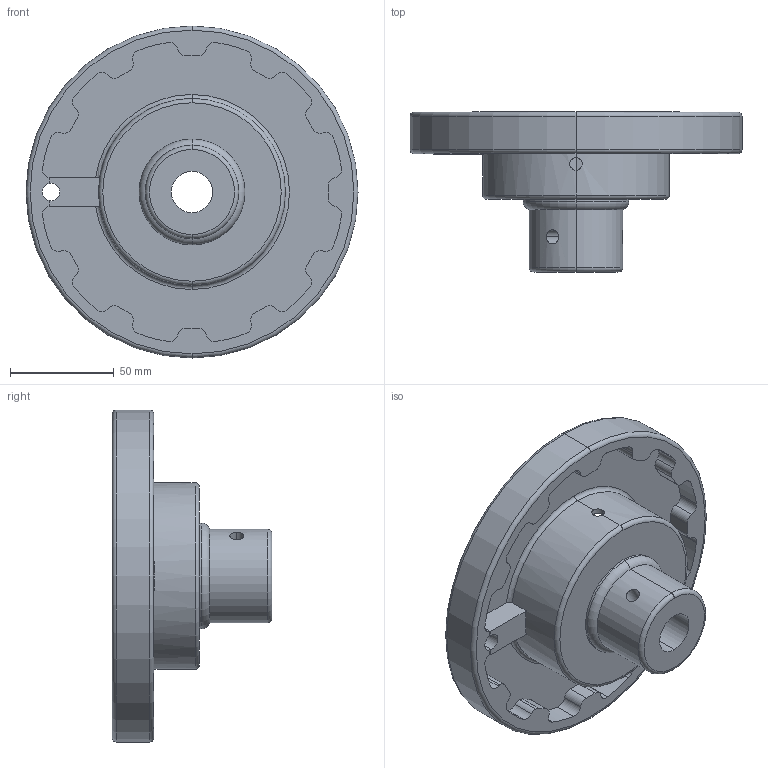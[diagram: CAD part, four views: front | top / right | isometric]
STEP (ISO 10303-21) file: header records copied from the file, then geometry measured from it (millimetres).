
FILE_DESCRIPTION (( 'STEP AP203' ), '1' );
FILE_NAME ('F01-6090A-H16.STEP', '2024-10-29T08:23:22', ( '' ), ( '' ), 'SwSTEP 2.0', 'SolidWorks 2021', '' );
FILE_SCHEMA (( 'CONFIG_CONTROL_DESIGN' ));
Length unit declared in the file: millimetre
Products named in the file (1): F01-6090A-H16
Bounding box: 160 x 77 x 160 mm (x, y, z)
Volume: 278591.9 mm3; surface area: 81136.1 mm2
Topology: 1 solids, 1 shells, 130 faces, 361 edges, 234 vertices
Faces by surface type: cylinder 90, plane 23, torus 15, cone 2
Entity records: 4723 total; most frequent: CARTESIAN_POINT 1142, DIRECTION 806, ORIENTED_EDGE 722, EDGE_CURVE 361, AXIS2_PLACEMENT_3D 332, VERTEX_POINT 234, CIRCLE 201, VECTOR 142
